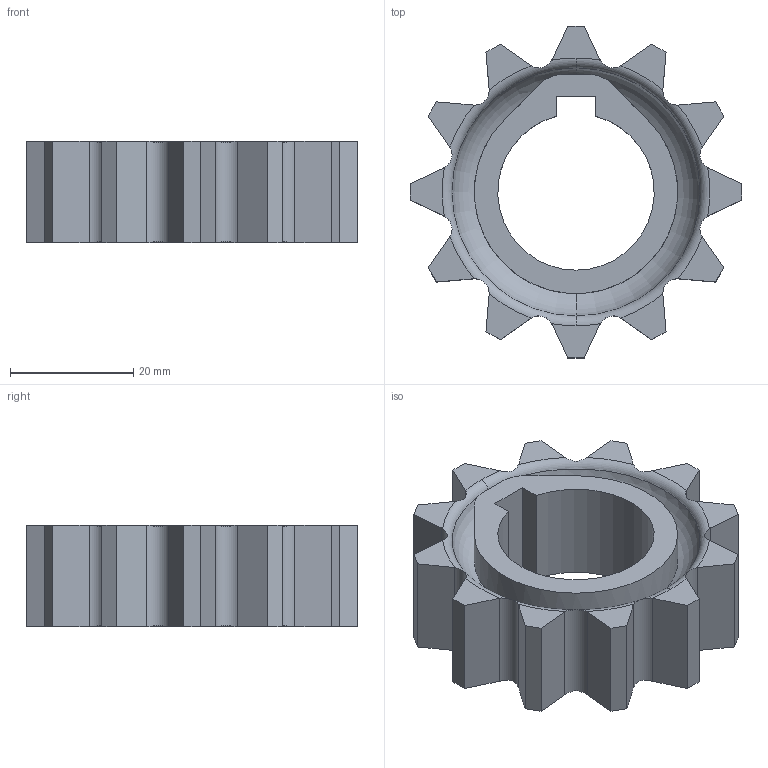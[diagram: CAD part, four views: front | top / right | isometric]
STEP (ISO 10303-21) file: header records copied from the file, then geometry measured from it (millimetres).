
FILE_DESCRIPTION((''),'2;1');
FILE_NAME('S1500_SPROCKET_19X1_25_RND','2008-12-12T',('jmumphre'),(''),'PRO/ENGINEER BY PARAMETRIC TECHNOLOGY CORPORATION, 2008150','PRO/ENGINEER BY PARAMETRIC TECHNOLOGY CORPORATION, 2008150','');
FILE_SCHEMA(('CONFIG_CONTROL_DESIGN'));
Length unit declared in the file: inch
Products named in the file (1): S1500_SPROCKET_19X1_25_RND
Bounding box: 53.87 x 53.87 x 16.51 mm (x, y, z)
Volume: 17879.3 mm3; surface area: 9384.8 mm2
Topology: 1 solids, 1 shells, 98 faces, 284 edges, 188 vertices
Faces by surface type: plane 71, cylinder 19, torus 8
Entity records: 3688 total; most frequent: CARTESIAN_POINT 1030, ORIENTED_EDGE 568, DIRECTION 544, EDGE_CURVE 284, AXIS2_PLACEMENT_3D 198, VERTEX_POINT 188, VECTOR 148, LINE 148
